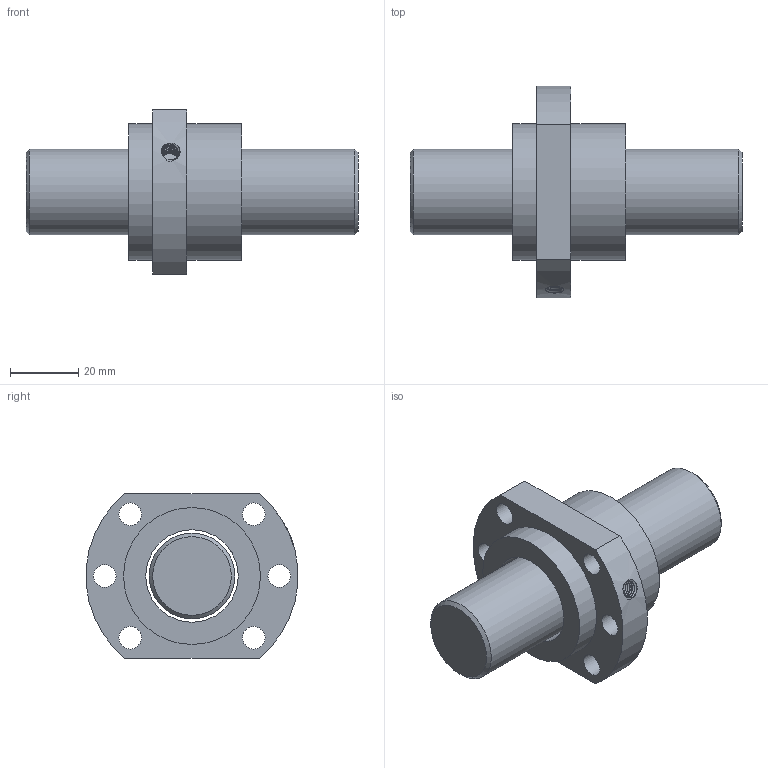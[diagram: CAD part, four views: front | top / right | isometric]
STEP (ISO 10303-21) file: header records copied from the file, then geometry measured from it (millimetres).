
FILE_DESCRIPTION(/* description */ ('Unknown','CAx-IF Rec.Pracs.---Representation and Presentation of Product Manufacturing Information (PMI)---4.0---2014-10-13','CAx-IF Rec.Pracs.---3D Tessellated Geometry---0.4---2014-09-14','2;1'),/* implementation_level */ '2;1');
FILE_NAME(/* name */ 'SFA2505-3.8',/* time_stamp */ '2020-12-08T08:28:13+08:00',/* author */ ('Unknown'),/* organization */ ('Unknown'),/* preprocessor_version */ 'ST-DEVELOPER v16.7',/* originating_system */ 'Solid Edge',/* authorisation */ 'Unknown');
FILE_SCHEMA (('AP242_MANAGED_MODEL_BASED_3D_ENGINEERING_MIM_LF { 1 0 10303 442 1 1 4 }'));
Length unit declared in the file: millimetre
Products named in the file (1): SFA2505-3.8
Bounding box: 97 x 61.8 x 48 mm (x, y, z)
Volume: 81730.8 mm3; surface area: 21314.8 mm2
Topology: 2 solids, 2 shells, 28 faces, 65 edges, 44 vertices
Faces by surface type: cylinder 15, plane 9, bspline 2, cone 2
Full cylindrical faces by diameter (mm): 1.5 x1, 6.6 x6, 25 x1, 27 x1, 40 x2
Entity records: 3124 total; most frequent: CARTESIAN_POINT 2453, DIRECTION 126, ORIENTED_EDGE 96, EDGE_LOOP 60, FACE_BOUND 60, AXIS2_PLACEMENT_3D 60, EDGE_CURVE 48, VERTEX_POINT 40
